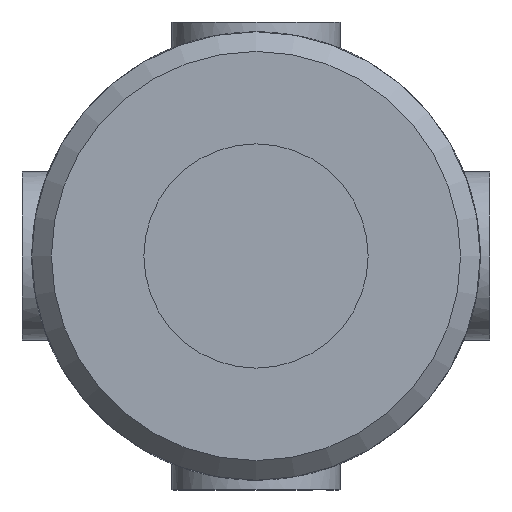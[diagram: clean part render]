
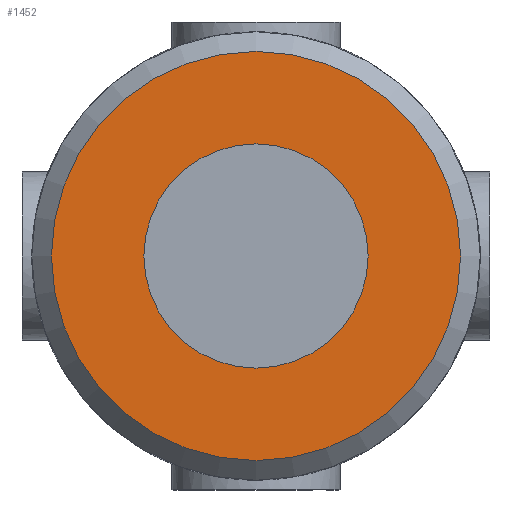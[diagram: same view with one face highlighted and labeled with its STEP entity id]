
A CAD part, front view. The second image highlights one B-rep face of the part: STEP entity #1452.
In plain terms, the highlighted planar face has unit normal (0, -1, 0).
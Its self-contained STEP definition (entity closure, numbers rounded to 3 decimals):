
#200=PLANE('',#1603);
#328=FACE_BOUND('',#537,.T.);
#406=FACE_OUTER_BOUND('',#536,.T.);
#536=EDGE_LOOP('',(#1267));
#537=EDGE_LOOP('',(#1268));
#619=CIRCLE('',#1597,4.);
#622=CIRCLE('',#1601,7.3);
#743=VERTEX_POINT('',#2813);
#746=VERTEX_POINT('',#2820);
#922=EDGE_CURVE('',#743,#743,#619,.T.);
#925=EDGE_CURVE('',#746,#746,#622,.T.);
#1267=ORIENTED_EDGE('',*,*,#925,.F.);
#1268=ORIENTED_EDGE('',*,*,#922,.T.);
#1452=ADVANCED_FACE('',(#406,#328),#200,.F.);
#1597=AXIS2_PLACEMENT_3D('',#2814,#1922,#1923);
#1601=AXIS2_PLACEMENT_3D('',#2821,#1930,#1931);
#1603=AXIS2_PLACEMENT_3D('',#2989,#1938,#1939);
#1922=DIRECTION('center_axis',(0.,1.,0.));
#1923=DIRECTION('ref_axis',(-1.,0.,0.));
#1930=DIRECTION('center_axis',(0.,1.,0.));
#1931=DIRECTION('ref_axis',(1.,0.,0.));
#1938=DIRECTION('center_axis',(0.,1.,0.));
#1939=DIRECTION('ref_axis',(0.,0.,1.));
#2813=CARTESIAN_POINT('',(4.,-24.,0.));
#2814=CARTESIAN_POINT('Origin',(0.,-24.,0.));
#2820=CARTESIAN_POINT('',(-7.3,-24.,0.));
#2821=CARTESIAN_POINT('Origin',(0.,-24.,0.));
#2989=CARTESIAN_POINT('Origin',(0.,-24.,0.));
